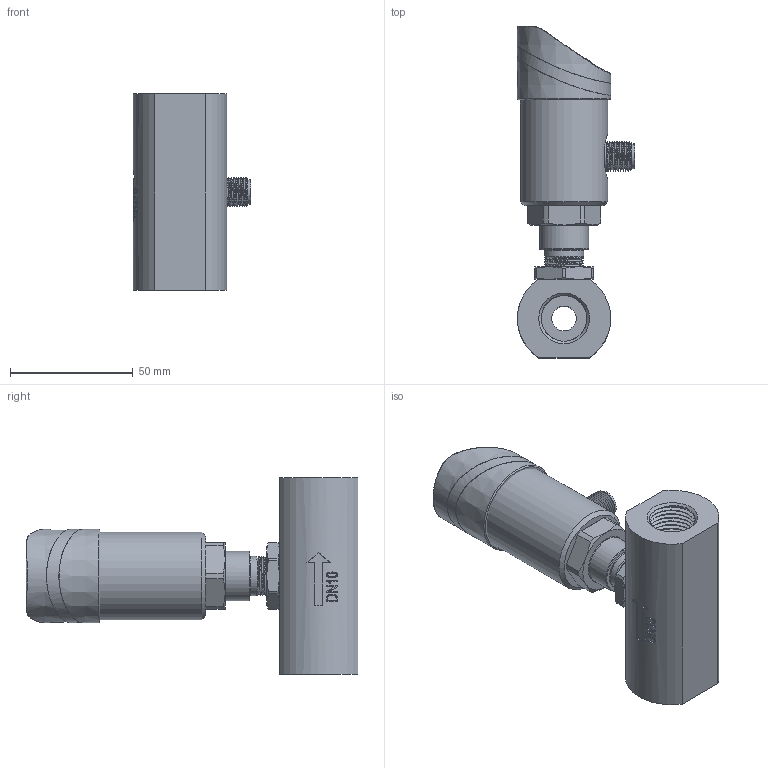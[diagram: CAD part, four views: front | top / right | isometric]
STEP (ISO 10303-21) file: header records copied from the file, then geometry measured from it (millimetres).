
FILE_DESCRIPTION( (''), '2;1');
FILE_NAME( 'QTKE_DN10_female-thread.step', '2024-10-15T09:00:55+08:00', (''), (''), '', '', '');
FILE_SCHEMA (('AUTOMOTIVE_DESIGN { 1 0 10303 214 3 1 1 1 }'));
Length unit declared in the file: millimetre
Products named in the file (1): QTKE DN10_female-thread
Bounding box: 47.7 x 134.98 x 80 mm (x, y, z)
Volume: 133521.3 mm3; surface area: 43685.3 mm2
Topology: 5 solids, 8 shells, 816 faces, 2127 edges, 1391 vertices
Faces by surface type: plane 325, cylinder 164, extrusion 150, cone 70, bspline 64, torus 32, sphere 11
Full cylindrical faces by diameter (mm): 1.689 x1, 2.7 x3, 12 x1, 15.9 x1, 16.5 x1, 18.631 x16, 20 x1, 23 x3, 26 x5, 35.5 x1, 37.001 x1
Entity records: 38167 total; most frequent: CARTESIAN_POINT 18333, ORIENTED_EDGE 3996, DIRECTION 3140, EDGE_CURVE 1998, VERTEX_POINT 1331, VECTOR 1118, AXIS2_PLACEMENT_3D 1011, LINE 968
